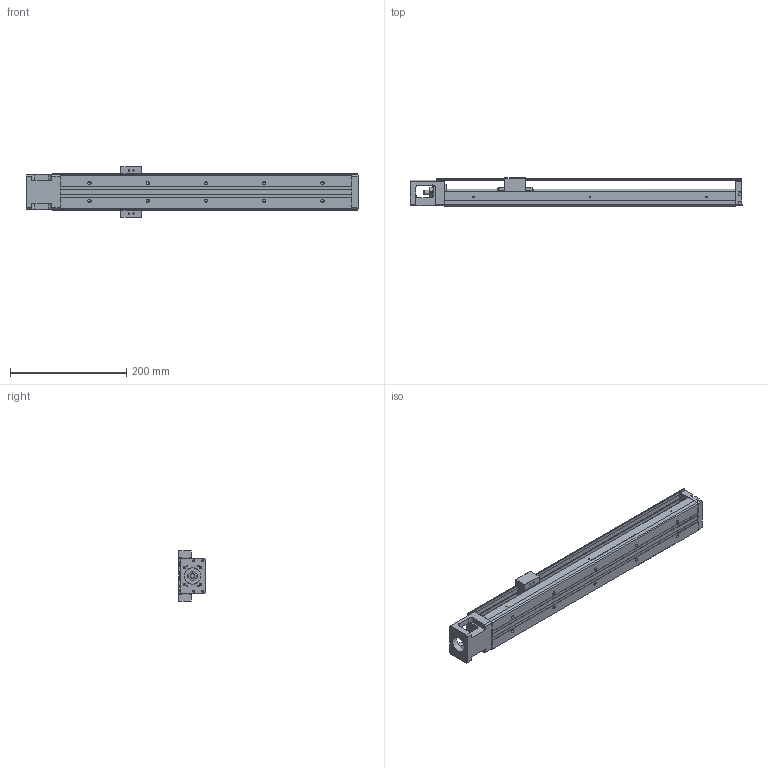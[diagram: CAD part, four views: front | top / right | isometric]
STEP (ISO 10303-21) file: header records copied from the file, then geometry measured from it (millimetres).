
FILE_DESCRIPTION(/* description */ (''),/* implementation_level */ '2;1');
FILE_NAME(/* name */ 'KP33S-500-C-D.stp',/* time_stamp */ '2020-06-04T18:05:02+08:00',/* author */ (''),/* organization */ (''),/* preprocessor_version */ 'ST-DEVELOPER v14',/* originating_system */ 'SIEMENS PLM Software NX 8.0',/* authorisation */ '');
FILE_SCHEMA (('AUTOMOTIVE_DESIGN { 1 0 10303 214 3 1 1 1 }'));
Length unit declared in the file: millimetre
Products named in the file (1): model1
Bounding box: 570 x 47.95 x 86 mm (x, y, z)
Volume: 697281.5 mm3; surface area: 251860.5 mm2
Topology: 7 solids, 16 shells, 714 faces, 1822 edges, 1203 vertices
Faces by surface type: plane 425, cylinder 204, bspline 31, cone 22, extrusion 21, torus 9, revolution 2
Full cylindrical faces by diameter (mm): 1.6 x3, 1.65 x4, 2.15 x7, 2.42 x4, 2.45 x8, 2.5 x16, 3.2 x4, 3.3 x4, 3.4 x4, 3.5 x10, 3.969 x1, 4 x4, 4.001 x1, 4.135 x2, 4.2 x2, 5.5 x10, 6 x4, 7.6 x1, 8 x5, 9.5 x10, 10.72 x3, 11.8 x2, 12 x6, 12.8 x1, 13 x2, 14 x1, 17.38 x3, 21.5 x1, 22 x2, 28 x1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
Entity records: 36710 total; most frequent: CARTESIAN_POINT 16598, DIRECTION 3252, ORIENTED_EDGE 3166, EDGE_CURVE 1583, AXIS2_PLACEMENT_3D 1141, VERTEX_POINT 1123, EDGE_LOOP 1010, VECTOR 968
